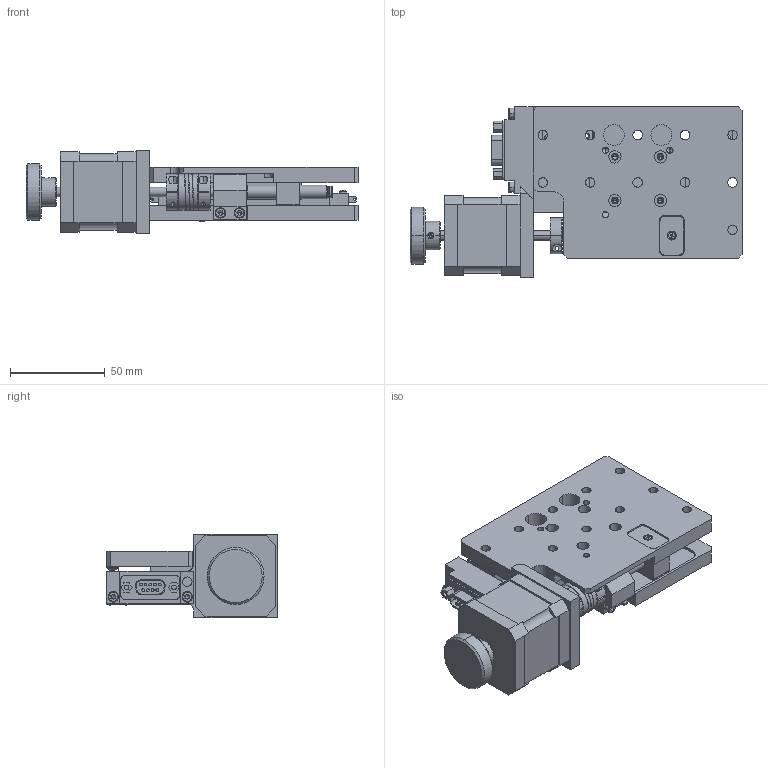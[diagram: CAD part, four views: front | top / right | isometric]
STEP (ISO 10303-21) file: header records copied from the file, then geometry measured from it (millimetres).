
FILE_DESCRIPTION (( 'STEP AP203' ), '1' );
FILE_NAME ('7STA1325-0萇雄す痄怢.STEP', '2015-07-21T00:44:36', ( 'lj-wang' ), ( '' ), 'SwSTEP 2.0', 'SolidWorks 2012', '' );
FILE_SCHEMA (( 'CONFIG_CONTROL_DESIGN' ));
Length unit declared in the file: millimetre
Products named in the file (1): 7STA1325-0萇雄す痄怢
Bounding box: 175 x 90 x 44 mm (x, y, z)
Volume: 241776.3 mm3; surface area: 103419.1 mm2
Topology: 56 solids, 56 shells, 1872 faces, 5122 edges, 3295 vertices
Faces by surface type: plane 865, cylinder 603, cone 186, torus 146, sphere 70, bspline 2
Entity records: 59981 total; most frequent: CARTESIAN_POINT 13068, DIRECTION 9937, ORIENTED_EDGE 9736, EDGE_CURVE 4868, AXIS2_PLACEMENT_3D 3810, VERTEX_POINT 3175, VECTOR 2317, LINE 2317
